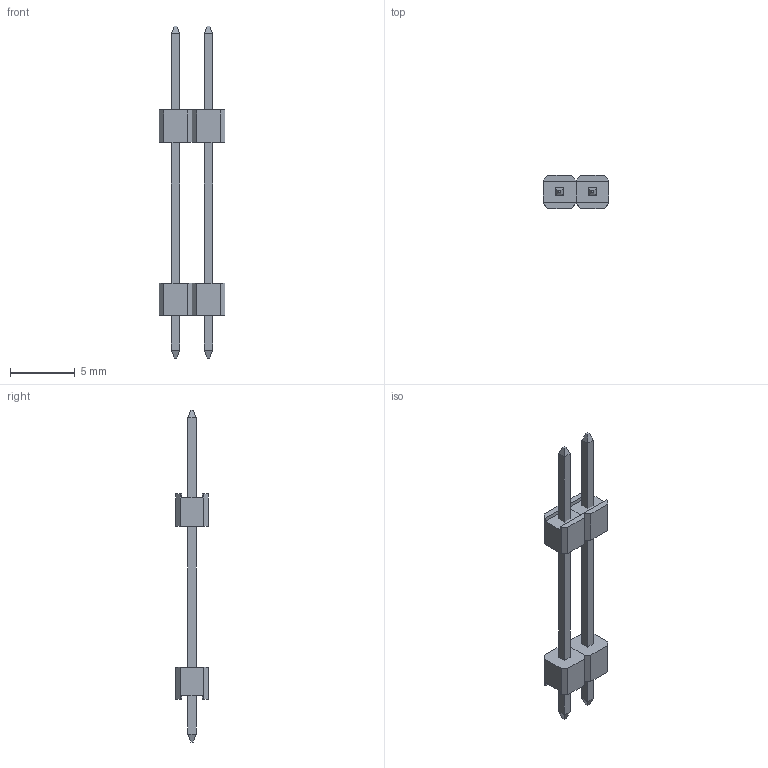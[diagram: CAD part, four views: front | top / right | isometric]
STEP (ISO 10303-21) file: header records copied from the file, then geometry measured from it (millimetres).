
FILE_DESCRIPTION(('FreeCAD Model'),'2;1');
FILE_NAME('Open CASCADE Shape Model','2023-11-07T10:55:00',(''),(''), 'Open CASCADE STEP processor 7.6','FreeCAD','Unknown');
FILE_SCHEMA(('AUTOMOTIVE_DESIGN { 1 0 10303 214 1 1 1 1 }'));
Length unit declared in the file: millimetre
Products named in the file (3): Unnamed; 3M_961401DBAN-M71RC; 3M_961402DBAN-M71RC
Assembly tree (2 placements, depth 2):
  Unnamed
    3M_961401DBAN-M71RC
    3M_961402DBAN-M71RC
Bounding box: 5.08 x 2.54 x 25.7 mm (x, y, z)
Volume: 113.2 mm3; surface area: 375.2 mm2
Topology: 4 solids, 4 shells, 122 faces, 900 edges, 2592 vertices
Faces by surface type: plane 122
Entity records: 12158 total; most frequent: CARTESIAN_POINT 3617, DIRECTION 1150, LINE 900, VECTOR 900, GEOMETRIC_CURVE_SET 602, ORIENTED_EDGE 600, TRIMMED_CURVE 600, PRESENTATION_STYLE_ASSIGNMENT 318
